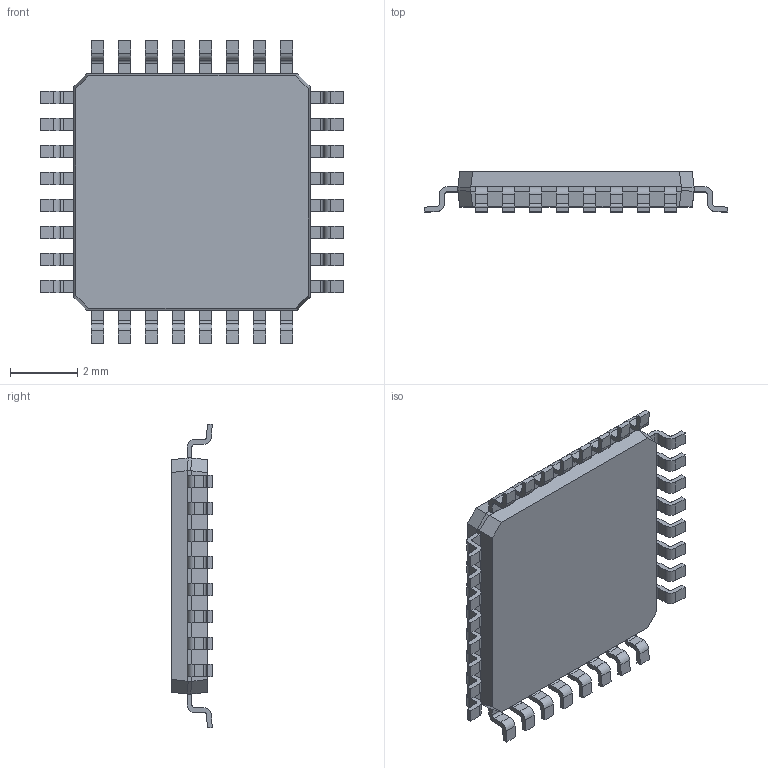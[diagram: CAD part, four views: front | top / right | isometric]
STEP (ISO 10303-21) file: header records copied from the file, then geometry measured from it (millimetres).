
FILE_DESCRIPTION (( 'STEP AP203' ), '1' );
FILE_NAME ('ATMEGA328P-AU--3DModel-STEP-56544.step.STEP.STEP.STEP.stp.STEP', '2026-08-19T20:49:50', ( '' ), ( '' ), 'SwSTEP 2.0', 'SolidWorks 2024', '' );
FILE_SCHEMA (( 'CONFIG_CONTROL_DESIGN' ));
Length unit declared in the file: millimetre
Products named in the file (1): ATMEGA328P-AU--3DModel-STEP-56544.step.STEP.STEP.STEP.stp
Bounding box: 9 x 1.2 x 9 mm (x, y, z)
Volume: 52.8 mm3; surface area: 176.9 mm2
Topology: 33 solids, 33 shells, 648 faces, 1701 edges, 1134 vertices
Faces by surface type: plane 422, cylinder 128, bspline 98
Entity records: 24198 total; most frequent: CARTESIAN_POINT 8580, ORIENTED_EDGE 3402, DIRECTION 2861, EDGE_CURVE 1701, LINE 1247, VECTOR 1247, VERTEX_POINT 1134, AXIS2_PLACEMENT_3D 807
